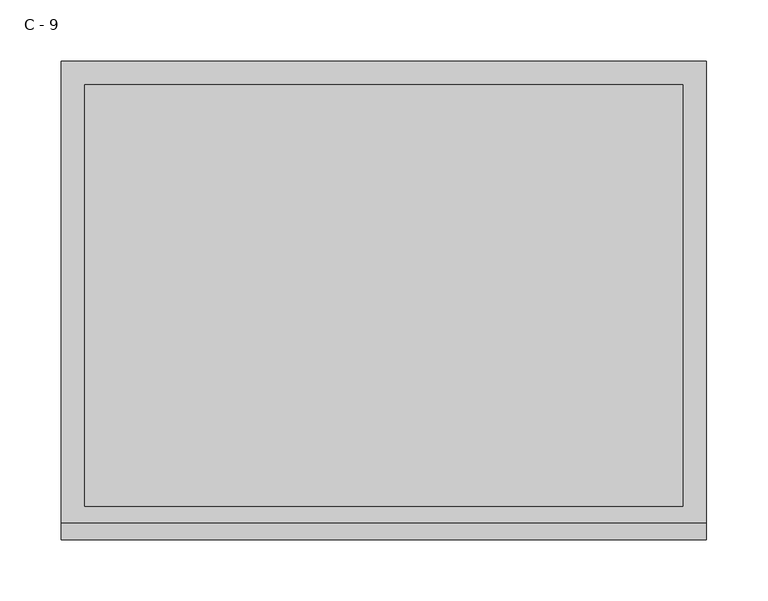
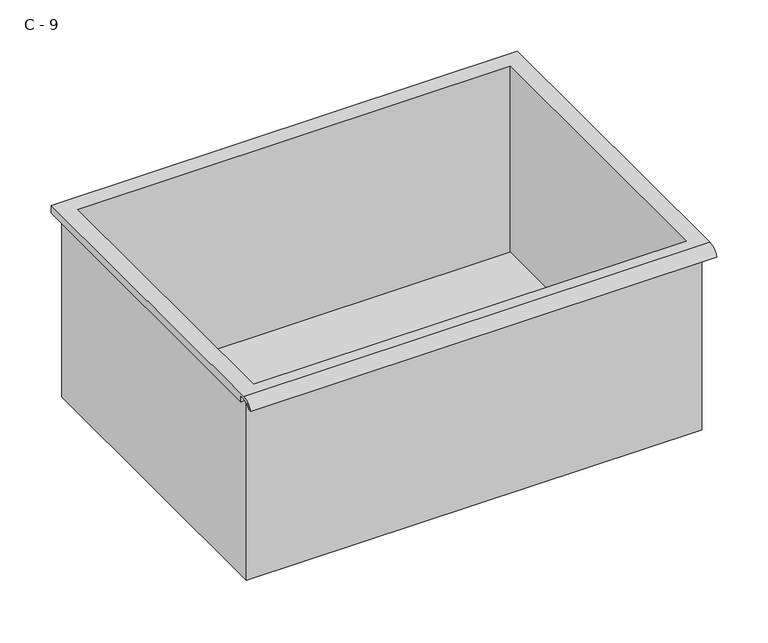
"""IFC4 building model written with IfcOpenShell, lengths in millimetres: furniture geometry, HermanMiller_CoStruc_CO207_Drawer : C - 9."""

from ifc_helpers import new_model, si_unit, frame, origin, place, context, project, spatial, polyline, circle_curve, source, transform, mapped, element, save
from ifc_brep_helpers import plane_surface, cylinder_surface, revolved_surface, advanced_brep


def c_9_236a4160(model_context):
    return source(origin(), model_context, "Body", "AdvancedBrep", [
        advanced_brep(
        [(-257.1076517, -176.2125, 387.35), (257.2423483, -176.2125, 387.35), (257.2423483, -176.2125, 603.25), (263.5923483, -176.2125, 603.25), (263.5923483, -176.2125, 609.5571341), (-263.4576517, -176.2125, 609.5571341), (-263.4576517, -176.2125, 603.25), (-257.1076517, -176.2125, 603.25), (257.2423483, 185.7375, 387.35), (-257.1076517, 185.7375, 387.35), (-257.1076517, 185.7375, 603.25), (257.2423483, 185.7375, 603.25), (263.5923483, -181.6070544, 612.775), (263.5923483, 195.2625, 612.775), (-263.4576517, 195.2625, 612.775), (-263.4576517, -181.6070544, 612.775), (244.5423483, -168.275, 612.775), (-244.4076517, -168.275, 612.775), (-244.4076517, 176.2125, 612.775), (244.5423483, 176.2125, 612.775), (263.5923483, -195.2625, 603.25), (263.5923483, -191.8280601, 603.25), (263.5923483, -180.4714815, 609.5571341), (263.5923483, 195.2625, 603.25), (-263.4576517, 195.2625, 603.25), (-263.4576517, -180.4714815, 609.5571341), (-263.4576517, -191.8280601, 603.25), (-263.4576517, -195.2625, 603.25), (-244.4076517, -168.275, 390.3761719), (244.5423483, -168.275, 390.3761719), (244.5423483, 176.2125, 390.3761719), (-244.4076517, 176.2125, 390.3761719)],
        [
            (0, 1),
            (1, 2),
            (2, 3),
            (3, 4),
            (4, 5),
            (5, 6),
            (6, 7),
            (7, 0),
            (8, 9),
            (9, 10),
            (10, 11),
            (11, 8),
            (0, 9),
            (8, 1),
            (11, 2),
            (12, 13),
            (13, 14),
            (14, 15),
            (15, 12),
            (16, 17),
            (17, 18),
            (18, 19),
            (19, 16),
            (7, 10),
            (12, 20, circle_curve(frame((263.5923483, -181.6070544, 598.2239859), z_axis=(1.0, 0.0, 0.0), x_axis=(0.0, 1.0, 0.0)), 14.5510141)),
            (20, 21),
            (21, 22, circle_curve(frame((263.5923483, -181.6070544, 598.2239859), z_axis=(-1.0, 0.0, 0.0), x_axis=(0.0, 1.0, 0.0)), 11.3898979)),
            (22, 4),
            (3, 23),
            (23, 13),
            (14, 24),
            (24, 6),
            (5, 25),
            (25, 26, circle_curve(frame((-263.4576517, -181.6070544, 598.2239859), z_axis=(1.0, 0.0, 0.0), x_axis=(0.0, 1.0, 0.0)), 11.3898979)),
            (26, 27),
            (27, 15, circle_curve(frame((-263.4576517, -181.6070544, 598.2239859), z_axis=(-1.0, 0.0, 0.0), x_axis=(0.0, 1.0, 0.0)), 14.5510141)),
            (27, 20),
            (26, 21),
            (25, 22),
            (24, 23),
            (28, 29),
            (29, 30),
            (30, 31),
            (31, 28),
            (28, 17),
            (16, 29),
            (19, 30),
            (18, 31),
        ],
        [
            plane_surface(frame((257.2423483, -176.2125, 387.35), z_axis=(0.0, -1.0, 0.0), x_axis=(1.0, 0.0, 0.0))),
            plane_surface(frame((257.2423483, 185.7375, 387.35), z_axis=(0.0, 1.0, 0.0), x_axis=(-1.0, 0.0, 0.0))),
            plane_surface(frame((-257.1076517, -176.2125, 387.35), z_axis=(0.0, 0.0, -1.0), x_axis=(0.0, 1.0, 0.0))),
            plane_surface(frame((257.2423483, -176.2125, 387.35), z_axis=(1.0, 0.0, 0.0), x_axis=(0.0, 1.0, 0.0))),
            plane_surface(frame((257.2423483, -176.2125, 612.775), z_axis=(0.0, 0.0, 1.0), x_axis=(0.0, 1.0, 0.0))),
            plane_surface(frame((-257.1076517, -176.2125, 612.775), z_axis=(-1.0, 0.0, 0.0), x_axis=(0.0, 1.0, 0.0))),
            plane_surface(frame((263.5923483, 195.2625, 612.775), z_axis=(1.0, 0.0, 0.0), x_axis=(0.0, -1.0, 0.0))),
            plane_surface(frame((-263.4576517, 195.2625, 612.775), z_axis=(-1.0, 0.0, 0.0), x_axis=(0.0, 1.0, 0.0))),
            cylinder_surface(frame((-263.4576517, -181.6070544, 598.2239859), z_axis=(1.0, 0.0, 0.0), x_axis=(0.0, 1.0, 0.0)), 14.5510141),
            plane_surface(frame((263.5923483, -195.2625, 603.25), z_axis=(0.0, -7.192703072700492e-12, -1.0), x_axis=(-1.0, 0.0, 0.0))),
            revolved_surface(polyline([(-263.4576517, -170.21715650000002, 598.2239859), (263.59234829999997, -170.21715650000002, 598.2239859)]), (-263.4576517, -181.6070544, 598.2239859), (-1.0, 0.0, 0.0)),
            plane_surface(frame((263.5923483, -180.4714815, 609.5571341), z_axis=(0.0, -1.779784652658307e-11, -1.0), x_axis=(-1.0, 0.0, 0.0))),
            plane_surface(frame((263.5923483, -176.2125, 603.25), z_axis=(0.0, 0.0, -1.0), x_axis=(-1.0, 0.0, 0.0))),
            plane_surface(frame((263.5923483, 195.2625, 603.25), z_axis=(0.0, 1.0, 0.0), x_axis=(-1.0, 0.0, 0.0))),
            plane_surface(frame((244.5423483, -168.275, 390.3761719), z_axis=(0.0, 0.0, 1.0), x_axis=(-1.0, 0.0, 0.0))),
            plane_surface(frame((-244.4076517, -168.275, 612.775), z_axis=(0.0, 1.0, 0.0), x_axis=(0.0, 0.0, -1.0))),
            plane_surface(frame((244.5423483, -168.275, 612.775), z_axis=(-1.0, 0.0, 0.0), x_axis=(0.0, 0.0, -1.0))),
            plane_surface(frame((244.5423483, 176.2125, 612.775), z_axis=(0.0, -1.0, 0.0), x_axis=(0.0, 0.0, -1.0))),
            plane_surface(frame((-244.4076517, 176.2125, 612.775), z_axis=(1.0, 0.0, 0.0), x_axis=(0.0, 0.0, -1.0))),
        ],
        [
            (0, [[1, 2, 3, 4, 5, 6, 7, 8]]),
            (1, [[9, 10, 11, 12]]),
            (2, [[-1, 13, -9, 14]]),
            (3, [[-14, -12, 15, -2]]),
            (4, [[16, 17, 18, 19], [20, 21, 22, 23]]),
            (5, [[-13, -8, 24, -10]]),
            (6, [[-16, 25, 26, 27, 28, -4, 29, 30]]),
            (7, [[31, 32, -6, 33, 34, 35, 36, -18]]),
            (8, [[-25, -19, -36, 37]]),
            (9, [[-26, -37, -35, 38]]),
            (10, [[-27, -38, -34, 39]]),
            (11, [[-28, -39, -33, -5]]),
            (12, [[-29, -3, -15, -11, -24, -7, -32, 40]]),
            (13, [[-30, -40, -31, -17]]),
            (14, [[41, 42, 43, 44]]),
            (15, [[-41, 45, -20, 46]]),
            (16, [[-42, -46, -23, 47]]),
            (17, [[-43, -47, -22, 48]]),
            (18, [[-44, -48, -21, -45]]),
        ],
    ),
    ])


if __name__ == "__main__":
    model = new_model("IFC4")
    model_context = context("Model", 3, world=origin())
    ifc_project = project(units=[si_unit("LENGTHUNIT", "METRE", prefix="MILLI")], contexts=[model_context])
    site = spatial("IfcSite", under=ifc_project)
    building = spatial("IfcBuilding", under=site)
    placement = place(None, origin())
    c_9_shape = c_9_236a4160(model_context)
    element("IfcFurniture", 1, ObjectType="HermanMiller_CoStruc_CO207_Drawer : C - 9", at=placement, inside=building, context=model_context, shape_type="MappedRepresentation", body=[
        mapped(c_9_shape, transform((0.0, 0.0, 0.0), x_axis=(1.0, 0.0, 0.0), y_axis=(0.0, 1.0, 0.0), z_axis=(0.0, 0.0, 1.0))),
    ])
    save(model, "model.ifc")
